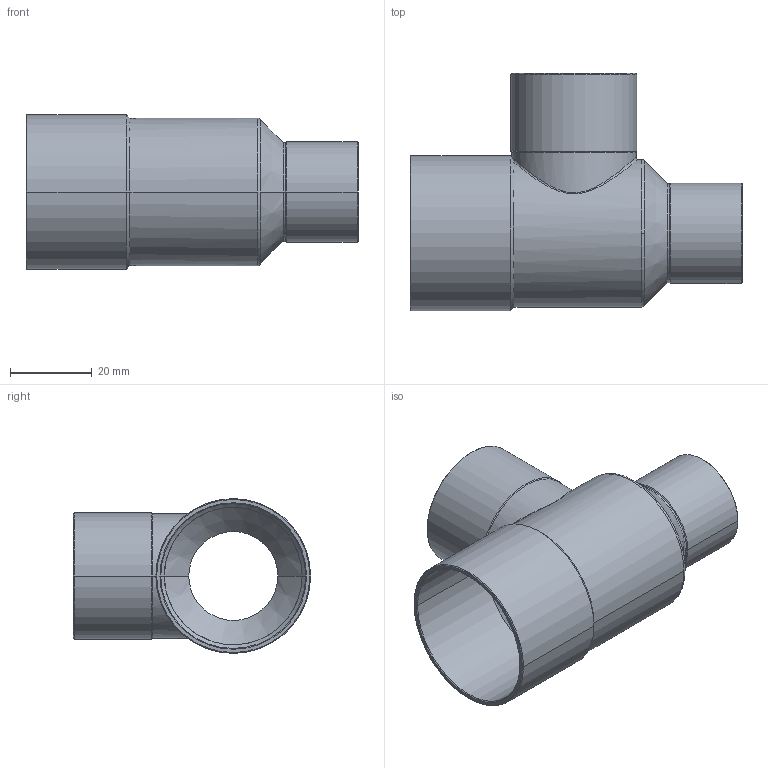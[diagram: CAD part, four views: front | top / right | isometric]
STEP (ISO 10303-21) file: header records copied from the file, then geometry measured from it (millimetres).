
FILE_DESCRIPTION((''),'2;1');
FILE_NAME('G:\Technics\CAD\Bauteile\15130\15130352822.stp','2005-11-03T13:42:56',('boden'),(''),'Autodesk Inventor 8','Autodesk Inventor 8','');
FILE_SCHEMA(('AUTOMOTIVE_DESIGN { 1 0 10303 214 1 1 1 1 }'));
Length unit declared in the file: millimetre
Products named in the file (1): 15130352822
Bounding box: 81 x 57.88 x 37.75 mm (x, y, z)
Volume: 12264.8 mm3; surface area: 20370.2 mm2
Topology: 1 solids, 1 shells, 59 faces, 133 edges, 75 vertices
Faces by surface type: cone 28, cylinder 24, plane 3, torus 2, bspline 2
Entity records: 2170 total; most frequent: CARTESIAN_POINT 820, DIRECTION 298, ORIENTED_EDGE 266, EDGE_CURVE 133, AXIS2_PLACEMENT_3D 123, VERTEX_POINT 75, CIRCLE 65, EDGE_LOOP 62
